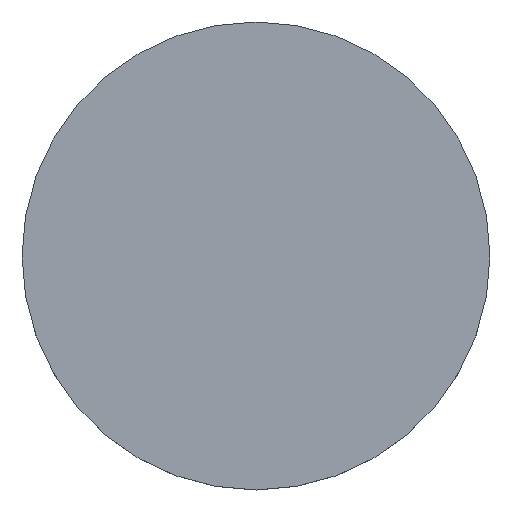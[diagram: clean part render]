
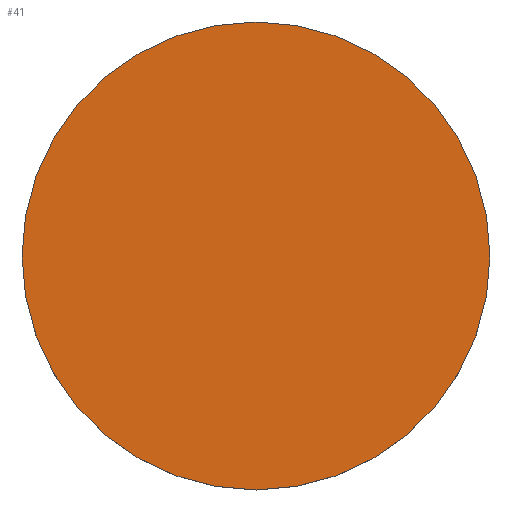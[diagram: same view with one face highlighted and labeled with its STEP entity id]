
A CAD part, top view. The second image highlights one B-rep face of the part: STEP entity #41.
In plain terms, the highlighted planar face has unit normal (0, 0, 1).
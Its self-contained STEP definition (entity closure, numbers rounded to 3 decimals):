
#16=PLANE('',#60);
#19=FACE_OUTER_BOUND('',#22,.T.);
#22=EDGE_LOOP('',(#37));
#25=CIRCLE('',#57,9.525);
#27=VERTEX_POINT('',#76);
#29=EDGE_CURVE('',#27,#27,#25,.T.);
#37=ORIENTED_EDGE('',*,*,#29,.T.);
#41=ADVANCED_FACE('',(#19),#16,.T.);
#57=AXIS2_PLACEMENT_3D('',#77,#65,#66);
#60=AXIS2_PLACEMENT_3D('',#82,#72,#73);
#65=DIRECTION('center_axis',(0.,0.,1.));
#66=DIRECTION('ref_axis',(1.,0.,0.));
#72=DIRECTION('center_axis',(0.,0.,1.));
#73=DIRECTION('ref_axis',(1.,0.,0.));
#76=CARTESIAN_POINT('',(80.475,65.,166.175));
#77=CARTESIAN_POINT('Origin',(90.,65.,166.175));
#82=CARTESIAN_POINT('Origin',(90.,65.,166.175));
